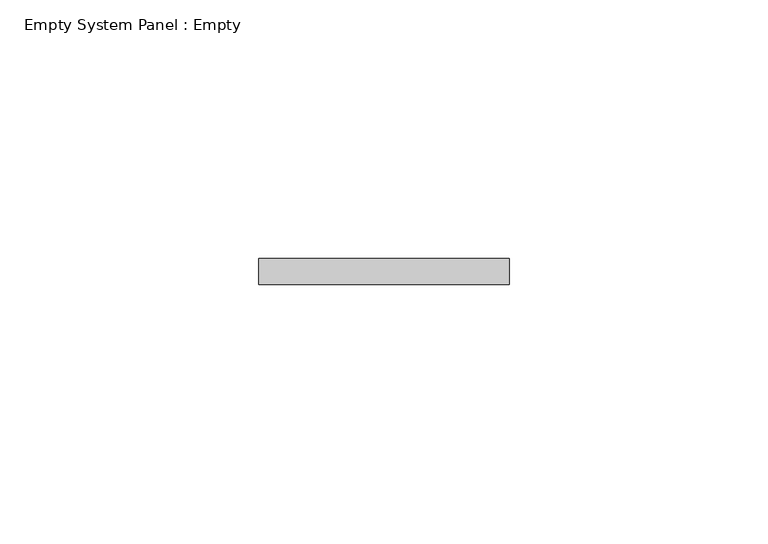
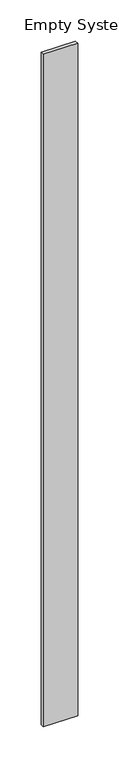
"""IFC4 building model written with IfcOpenShell, lengths in millimetres: plate geometry, Empty System Panel : Empty."""

import ifcopenshell
import ifcopenshell.guid

model = None  # the IFC model being written
_history = None  # IfcOwnerHistory: only IFC2X3 demands one
_inside = {}  # id of a spatial element -> (the spatial element, [elements in it])
_under = {}  # id of a project, library or spatial element -> (it, [spatial elements below it])
_declared = {}  # id of a project -> (the project, [libraries it declares])
_typed = {}  # id of a type object -> (the type object, [elements of that type])
_made_of = {}  # id of a material, layer set ... -> (it, [elements and type objects made of it])


def new_model(schema):
    """Start an empty IFC model of exactly this schema.

    Asked for "IFC4X3", IfcOpenShell would pick the latest addendum, in which some entities
    have other attributes; the version numbers below select the first issue.
    IFC2X3 requires an IfcOwnerHistory on every rooted entity: one is made here for all.
    """
    global model, _history
    if schema == "IFC4X3":
        model = ifcopenshell.file(schema_version=(4, 3, 0, 0))
    else:
        model = ifcopenshell.file(schema=schema)
    _inside.clear()
    _under.clear()
    _declared.clear()
    _typed.clear()
    _made_of.clear()
    _history = None
    if model.schema == "IFC2X3":
        org = make("IfcOrganization", Name="unknown")
        user = make(
            "IfcPersonAndOrganization",
            ThePerson=make("IfcPerson", FamilyName="unknown"),
            TheOrganization=org,
        )
        app = make(
            "IfcApplication",
            ApplicationDeveloper=org,
            Version="unknown",
            ApplicationFullName="unknown",
            ApplicationIdentifier="unknown",
        )
        _history = make(
            "IfcOwnerHistory",
            OwningUser=user,
            OwningApplication=app,
            ChangeAction="ADDED",
            CreationDate=0,
        )
    return model


def make(cls, **values):
    """One entity of the class cls with the attributes given. An attribute that is None is left unset."""
    return model.create_entity(
        cls, **{name: value for name, value in values.items() if value is not None}
    )


def rooted(cls, **values):
    """An entity with a GlobalId (a new one), such as an element, a storey or a relation."""
    return make(cls, GlobalId=ifcopenshell.guid.new(), OwnerHistory=_history, **values)


def si_unit(unit_type, name, prefix=None):
    """IfcSIUnit, for example si_unit("LENGTHUNIT", "METRE", prefix="MILLI")."""
    return make("IfcSIUnit", UnitType=unit_type, Prefix=prefix, Name=name)


def assignment(units):
    """IfcUnitAssignment: the units of a project."""
    return None if units is None else make("IfcUnitAssignment", Units=units)


def point(xyz):
    """IfcCartesianPoint."""
    return None if xyz is None else make("IfcCartesianPoint", Coordinates=xyz)


def direction(xyz):
    """IfcDirection."""
    return None if xyz is None else make("IfcDirection", DirectionRatios=xyz)


def frame(location, z_axis=None, x_axis=None):
    """IfcAxis2Placement3D, a coordinate frame: its origin and axes. An axis left out is left unset."""
    return make(
        "IfcAxis2Placement3D",
        Location=point(location),
        Axis=direction(z_axis),
        RefDirection=direction(x_axis),
    )


def origin():
    """The frame at (0, 0, 0) with its axes left unset."""
    return frame((0.0, 0.0, 0.0))


def origin_with_axes():
    """The frame at (0, 0, 0) with the z axis (0, 0, 1) and the x axis (1, 0, 0) written out."""
    return frame((0.0, 0.0, 0.0), z_axis=(0.0, 0.0, 1.0), x_axis=(1.0, 0.0, 0.0))


def place(relative_to, where):
    """IfcLocalPlacement: puts the frame where relative to a parent placement (None: the world)."""
    return make(
        "IfcLocalPlacement", PlacementRelTo=relative_to, RelativePlacement=where
    )


def context(
    kind, dimensions, precision=None, world=None, true_north=None, identifier=None
):
    """IfcGeometricRepresentationContext, for example the 3D "Model" context."""
    return make(
        "IfcGeometricRepresentationContext",
        ContextIdentifier=identifier,
        ContextType=kind,
        CoordinateSpaceDimension=dimensions,
        Precision=precision,
        WorldCoordinateSystem=world,
        TrueNorth=true_north,
    )


def project(units=None, contexts=None):
    """IfcProject with its units and contexts."""
    return rooted(
        "IfcProject",
        Name="project",
        RepresentationContexts=contexts,
        UnitsInContext=assignment(units),
    )


def spatial(cls, under=None, at=None, **own):
    """A site, building, storey or space (cls), placed at a placement, below another one or the project."""
    s = rooted(cls, ObjectPlacement=at, **own)
    if under is not None:
        _under.setdefault(under.id(), (under, []))[1].append(s)
    return s


def polyline(points):
    """IfcPolyline through the points."""
    return make("IfcPolyline", Points=[point(p) for p in points])


def outline(outer, holes=None, kind="AREA"):
    """IfcArbitraryClosedProfileDef: a profile drawn as a closed curve; with holes, ...WithVoids."""
    if holes is None:
        return make("IfcArbitraryClosedProfileDef", ProfileType=kind, OuterCurve=outer)
    return make(
        "IfcArbitraryProfileDefWithVoids",
        ProfileType=kind,
        OuterCurve=outer,
        InnerCurves=holes,
    )


def extrude(swept, where, along, depth):
    """IfcExtrudedAreaSolid: the profile swept, set in the frame where, extruded along a direction by depth."""
    return make(
        "IfcExtrudedAreaSolid",
        SweptArea=swept,
        Position=where,
        ExtrudedDirection=direction(along),
        Depth=depth,
    )


def shape(context_of_items, identifier, shape_type, items):
    """IfcShapeRepresentation: the items that make up one representation, for example the "Body"."""
    return make(
        "IfcShapeRepresentation",
        ContextOfItems=context_of_items,
        RepresentationIdentifier=identifier,
        RepresentationType=shape_type,
        Items=items,
    )


def source(mapping_origin, context_of_items, identifier, shape_type, items):
    """IfcRepresentationMap: a shape defined once, which mapped items show again and again."""
    return make(
        "IfcRepresentationMap",
        MappingOrigin=mapping_origin,
        MappedRepresentation=shape(context_of_items, identifier, shape_type, items),
    )


def transform(
    local_origin,
    x_axis=None,
    y_axis=None,
    z_axis=None,
    scale=None,
    scale2=None,
    scale3=None,
    uniform=True,
):
    """IfcCartesianTransformationOperator3D, or its non-uniform kind. x_axis, y_axis, z_axis: its Axis1, 2, 3."""
    if uniform:
        return make(
            "IfcCartesianTransformationOperator3D",
            Axis1=direction(x_axis),
            Axis2=direction(y_axis),
            LocalOrigin=point(local_origin),
            Scale=scale,
            Axis3=direction(z_axis),
        )
    return make(
        "IfcCartesianTransformationOperator3DnonUniform",
        Axis1=direction(x_axis),
        Axis2=direction(y_axis),
        LocalOrigin=point(local_origin),
        Scale=scale,
        Axis3=direction(z_axis),
        Scale2=scale2,
        Scale3=scale3,
    )


def mapped(mapping_source, mapping_target):
    """IfcMappedItem: shows the shape of a source again, moved by a transform."""
    return make(
        "IfcMappedItem", MappingSource=mapping_source, MappingTarget=mapping_target
    )


def made_of(thing, what):
    """Note that an element or type object is made of a material, layer set ...; save() writes the relation."""
    if what is not None:
        _made_of.setdefault(what.id(), (what, []))[1].append(thing)
    return thing


def element(
    cls,
    number,
    at=None,
    inside=None,
    cuts=None,
    type_object=None,
    material=None,
    context=None,
    identifier="Body",
    shape_type=None,
    held_by="IfcProductDefinitionShape",
    body=None,
    shapes=None,
    **own,
):
    """One element of the class cls, such as IfcWall. Its Tag is "e" and its number.

    at: its placement. inside: the storey or other place that contains it. cuts: it is an
    opening in that element (IfcRelVoidsElement). A single representation is given by context,
    identifier, shape_type and body (its items); several are given by shapes. held_by: the class
    of the entity that holds the representations. save() writes the other relations.
    """
    e = rooted(cls, Tag="e%d" % number, ObjectPlacement=at, **own)
    if body is not None:
        shapes = [shape(context, identifier, shape_type, body)]
    if shapes is not None:
        e.Representation = make(held_by, Representations=shapes)
    if inside is not None:
        _inside.setdefault(inside.id(), (inside, []))[1].append(e)
    if cuts is not None:
        rooted(
            "IfcRelVoidsElement", RelatingBuildingElement=cuts, RelatedOpeningElement=e
        )
    if type_object is not None:
        _typed.setdefault(type_object.id(), (type_object, []))[1].append(e)
    return made_of(e, material)


def aggregate(whole, parts):
    """IfcRelAggregates: a whole, such as a stair, and the parts it consists of."""
    return rooted("IfcRelAggregates", RelatingObject=whole, RelatedObjects=parts)


def save(model, path):
    """Write the relations noted so far, then the file.

    IfcRelAggregates (storeys below a building ...), IfcRelContainedInSpatialStructure (elements
    in a storey), IfcRelDefinesByType, IfcRelAssociatesMaterial and IfcRelDeclares: one each for
    every whole, place, type object, material and project.
    """
    for whole, parts in _under.values():
        aggregate(whole, parts)
    for where, things in _inside.values():
        rooted(
            "IfcRelContainedInSpatialStructure",
            RelatedElements=things,
            RelatingStructure=where,
        )
    for kind, things in _typed.values():
        rooted("IfcRelDefinesByType", RelatedObjects=things, RelatingType=kind)
    for what, things in _made_of.values():
        rooted("IfcRelAssociatesMaterial", RelatedObjects=things, RelatingMaterial=what)
    for by, libraries in _declared.values():
        rooted("IfcRelDeclares", RelatingContext=by, RelatedDefinitions=libraries)
    model.write(path)


def empty_system_panel_empty_fabe9b0d(model_context):
    return source(origin(), model_context, "Body", "SweptSolid", [
        extrude(outline(polyline([(24.2, 97.5), (-24.2, 97.5), (-24.2, 102.5), (24.2, 102.5), (24.2, 97.5)])), origin_with_axes(), (0.0, 0.0, 1.0), 1000.0),
    ])


if __name__ == "__main__":
    model = new_model("IFC4")
    model_context = context("Model", 3, world=origin())
    ifc_project = project(units=[si_unit("LENGTHUNIT", "METRE", prefix="MILLI")], contexts=[model_context])
    site = spatial("IfcSite", under=ifc_project)
    building = spatial("IfcBuilding", under=site)
    placement = place(None, origin())
    empty_system_panel_empty_shape = empty_system_panel_empty_fabe9b0d(model_context)
    element("IfcPlate", 1, ObjectType="Empty System Panel : Empty", at=placement, inside=building, context=model_context, shape_type="MappedRepresentation", body=[
        mapped(empty_system_panel_empty_shape, transform((0.0, 0.0, 0.0), x_axis=(1.0, 0.0, 0.0), y_axis=(0.0, 1.0, 0.0), z_axis=(0.0, 0.0, 1.0))),
    ])
    save(model, "model.ifc")
